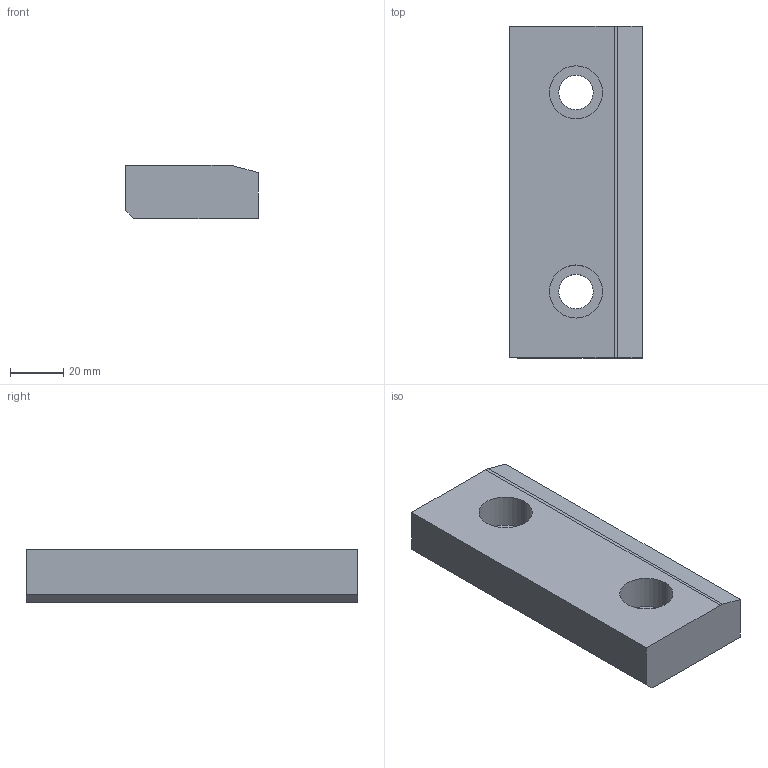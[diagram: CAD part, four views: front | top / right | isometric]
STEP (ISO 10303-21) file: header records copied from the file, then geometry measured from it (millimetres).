
FILE_DESCRIPTION (( 'STEP AP214' ), '1' );
FILE_NAME ('SW225-01-125x50.STEP', '2020-10-21T10:22:20', ( 'August' ), ( '' ), 'SwSTEP 2.0', 'SolidWorks 2018', '' );
FILE_SCHEMA (( 'AUTOMOTIVE_DESIGN' ));
Length unit declared in the file: millimetre
Products named in the file (1): SW225-01-125x50
Bounding box: 50 x 125 x 20 mm (x, y, z)
Volume: 112734.1 mm3; surface area: 20627.2 mm2
Topology: 1 solids, 1 shells, 19 faces, 45 edges, 30 vertices
Faces by surface type: plane 10, cylinder 9
Entity records: 599 total; most frequent: DIRECTION 103, CARTESIAN_POINT 95, ORIENTED_EDGE 90, EDGE_CURVE 45, AXIS2_PLACEMENT_3D 38, VERTEX_POINT 30, VECTOR 27, LINE 27
